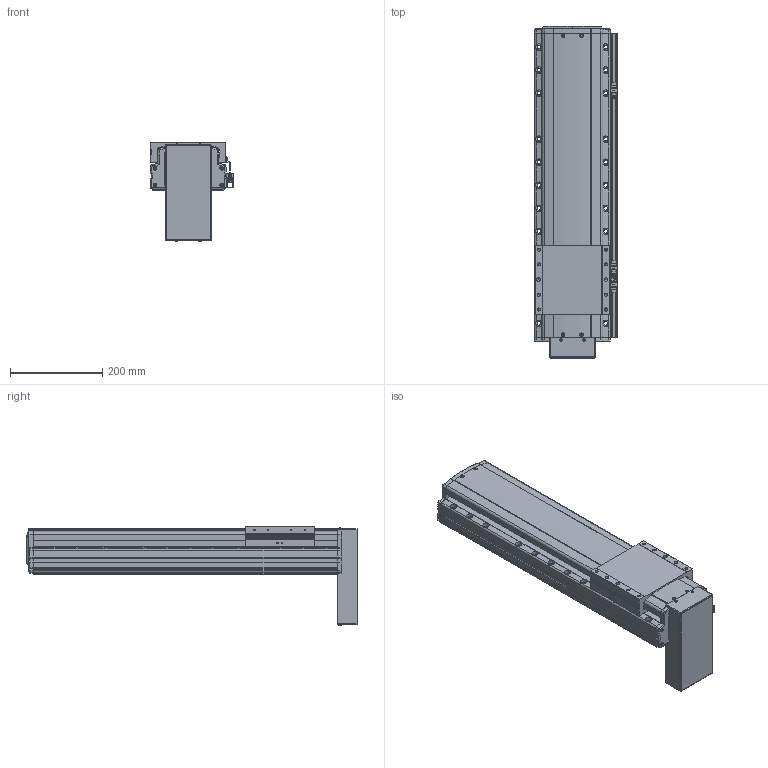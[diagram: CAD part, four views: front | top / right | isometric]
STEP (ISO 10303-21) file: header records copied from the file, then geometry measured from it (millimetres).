
FILE_DESCRIPTION(('STEP AP214'),'1');
FILE_NAME('Z:/Web/3D/PSA165/STP/PSA165-400 (3D)/PSA165ㅁㅁ-400PB+3SR.stp','2014-06-23T11:14:06',(' '),(' '),'Spatial InterOp 3D',' ',' ');
FILE_SCHEMA(('automotive_design'));
Length unit declared in the file: millimetre
Products named in the file (47): 스크루 : Round - M4.0 x 12.0; RRCV-PA160; BASE; 스크루 : Round - M4.0 x 10.0; RN15; Screw 20; SLIDE; FRCV; MTPL CV- PB; 스크루 : Round - M3.0 x 6.0; 1; 2; M3.0 x 6.0; SRL-16x17-360L; SGD-SAN150; EE-SX674; SBK-SX674-352; BHCS M4.0 x 10.0
Bounding box: 181 x 720.8 x 215.96 mm (x, y, z)
Volume: 10461769.1 mm3; surface area: 826330.4 mm2
Topology: 47 solids, 47 shells, 2632 faces, 7000 edges, 4496 vertices
Faces by surface type: plane 1525, cylinder 764, cone 230, sphere 72, bspline 25, torus 16
Entity records: 106251 total; most frequent: CARTESIAN_POINT 18085, DIRECTION 14043, ORIENTED_EDGE 13724, EDGE_CURVE 6862, AXIS2_PLACEMENT_3D 4714, LINE 4615, VECTOR 4615, VERTEX_POINT 4496
